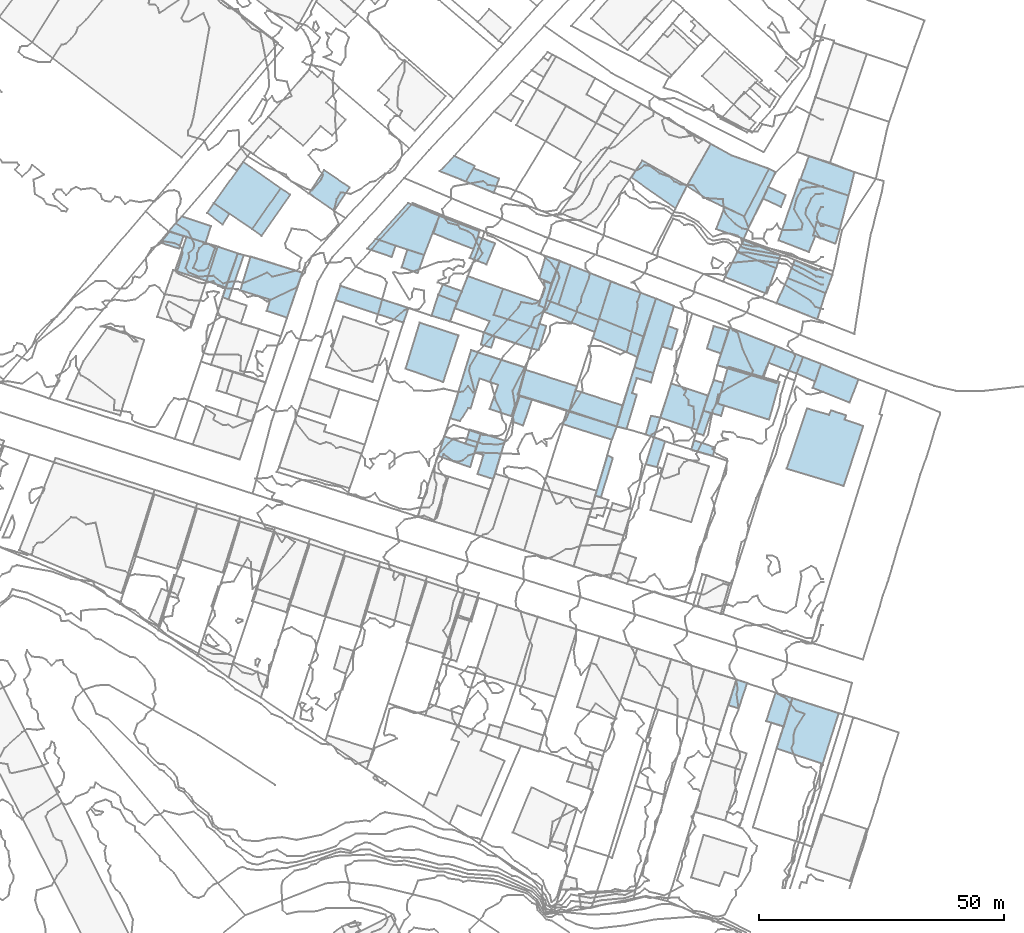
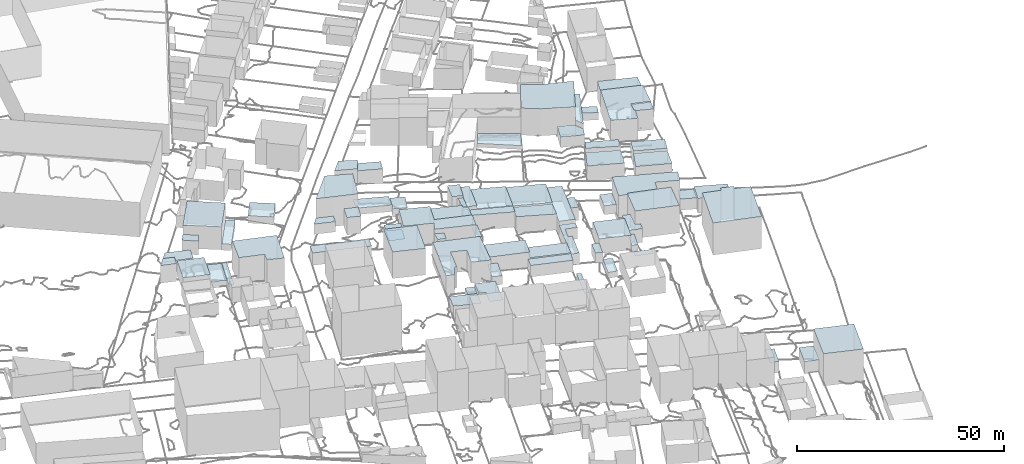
# Not in any storey, part 77 of 419: 71 roofs.
"""IFC2X3 model written with IfcOpenShell, lengths in metres."""

from ifc_helpers import new_model, si_unit, frame, origin_with_axes, place, context, subcontext, project, faceted_brep, element, save


model = new_model("IFC2X3")

# Units and contexts
model_context = context("Model", 3, precision=1e-05, world=origin_with_axes())
body_context = subcontext(model_context, "Body", "Model", "MODEL_VIEW")
ifc_project = project(units=[si_unit("AREAUNIT", "SQUARE_METRE"), si_unit("LENGTHUNIT", "METRE")], contexts=[model_context])

# Roofs
roof_1_placement = place(None, frame((909.2920204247, 193.2976909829, 76.31900177), z_axis=(0.0, 0.0, 1.0), x_axis=(1.0, 0.0, 0.0)))
element("IfcRoof", 1, at=roof_1_placement, Name="Toiture 0", ShapeType="NOTDEFINED", context=body_context, shape_type="Brep", body=[
    faceted_brep([(9.4, 2.6999999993, 5.68099823), (1.9, 5.2999999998, 5.68099823), (0.0, 0.0, 5.68099823), (9.0, -2.9000000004, 5.68099823), (10.4, 1.3999999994, 5.68099823), (9.2000000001, 1.8999999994, 5.68099823)], [[[0, 1, 2]], [[2, 3, 4]], [[5, 0, 2]], [[2, 4, 5]]]),
])
roof_2_placement = place(None, frame((841.2920204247, 207.9976909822, 78.8006016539), z_axis=(0.0, 0.0, 1.0), x_axis=(1.0, 0.0, 0.0)))
element("IfcRoof", 2, at=roof_2_placement, Name="Toiture 0", ShapeType="NOTDEFINED", context=body_context, shape_type="Brep", body=[
    faceted_brep([(3.8, -1.1999999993, 5.1993983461), (4.7000000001, 1.4000000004, 5.1993983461), (1.9, 2.3000000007, 5.1993983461), (0.0, 0.0, 5.1993983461)], [[[0, 1, 2]], [[2, 3, 0]]]),
])
roof_3_placement = place(None, frame((876.9920204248, 196.2976909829, 78.6641006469), z_axis=(0.0, 0.0, 1.0), x_axis=(1.0, 0.0, 0.0)))
element("IfcRoof", 3, at=roof_3_placement, Name="Toiture 0", ShapeType="NOTDEFINED", context=body_context, shape_type="Brep", body=[
    faceted_brep([(1.0, 2.8999999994, 3.6358993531), (0.0, 0.0, 3.6358993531), (13.9, -4.6000000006, 3.6358993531), (14.9, -1.6000000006, 3.6358993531)], [[[0, 1, 2]], [[2, 3, 0]]]),
])
roof_4_placement = place(None, frame((844.2920204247, 202.2976909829, 78.6877996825), z_axis=(0.0, 0.0, 1.0), x_axis=(1.0, 0.0, 0.0)))
element("IfcRoof", 4, at=roof_4_placement, Name="Toiture 0", ShapeType="NOTDEFINED", context=body_context, shape_type="Brep", body=[
    faceted_brep([(6.4, -2.1000000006, 4.1122003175), (8.7000000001, 4.8999999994, 4.1122003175), (2.3, 6.8999999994, 4.1122003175), (0.0, 0.0, 4.1122003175)], [[[0, 1, 2]], [[2, 3, 0]]]),
])
roof_5_placement = place(None, frame((890.4920204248, 202.9976909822, 78.856399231), z_axis=(0.0, 0.0, 1.0), x_axis=(1.0, 0.0, 0.0)))
element("IfcRoof", 5, at=roof_5_placement, Name="Toiture 0", ShapeType="NOTDEFINED", context=body_context, shape_type="Brep", body=[
    faceted_brep([(4.6, 2.5, 5.143600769), (1.2, 3.6000000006, 5.143600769), (0.0, 0.0, 5.143600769), (3.2999999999, -1.1999999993, 5.143600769)], [[[0, 1, 2]], [[2, 3, 0]]]),
])
roof_6_placement = place(None, frame((900.3920204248, 172.1976909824, 75.807699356), z_axis=(0.0, 0.0, 1.0), x_axis=(1.0, 0.0, 0.0)))
element("IfcRoof", 6, at=roof_6_placement, Name="Toiture 0", ShapeType="NOTDEFINED", context=body_context, shape_type="Brep", body=[
    faceted_brep([(4.2999999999, 13.9000000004, 6.192300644), (0.0, 0.0, 6.192300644), (2.0, -0.5999999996, 6.192300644), (3.7, 2.1000000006, 6.192300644), (4.2, 2.0, 6.192300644), (6.0, 8.1000000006, 6.192300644), (9.7999999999, 6.7999999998, 6.192300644), (8.1, 1.9000000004, 6.192300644), (12.7999999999, 0.2999999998, 6.192300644), (15.5, 10.2999999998, 6.192300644)], [[[0, 1, 2]], [[3, 4, 5]], [[6, 7, 8]], [[0, 2, 3]], [[6, 8, 9]], [[0, 3, 5]], [[5, 6, 9]], [[9, 0, 5]]]),
])
roof_7_placement = place(None, frame((891.2920204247, 182.2976909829, 78.2625008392), z_axis=(0.0, 0.0, 1.0), x_axis=(1.0, 0.0, 0.0)))
element("IfcRoof", 7, at=roof_7_placement, Name="Toiture 0", ShapeType="NOTDEFINED", context=body_context, shape_type="Brep", body=[
    faceted_brep([(2.9, 9.3999999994, 7.8374991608), (0.0, 0.0, 7.8374991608), (7.7000000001, -2.7000000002, 7.8374991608), (10.8, 6.7999999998, 7.8374991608)], [[[0, 1, 2]], [[2, 3, 0]]]),
])
roof_8_placement = place(None, frame((943.2920204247, 172.2976909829, 73.4867980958), z_axis=(0.0, 0.0, 1.0), x_axis=(1.0, 0.0, 0.0)))
element("IfcRoof", 8, at=roof_8_placement, Name="Toiture 0", ShapeType="NOTDEFINED", context=body_context, shape_type="Brep", body=[
    faceted_brep([(2.2000000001, 7.0, 4.3132019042), (0.0, 0.0, 4.3132019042), (7.5, -2.5, 4.3132019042), (9.7000000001, 4.5, 4.3132019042)], [[[0, 1, 2]], [[2, 3, 0]]]),
])
roof_9_placement = place(None, frame((950.5920204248, 169.1976909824, 72.9079986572), z_axis=(0.0, 0.0, 1.0), x_axis=(1.0, 0.0, 0.0)))
element("IfcRoof", 9, at=roof_9_placement, Name="Toiture 0", ShapeType="NOTDEFINED", context=body_context, shape_type="Brep", body=[
    faceted_brep([(0.0, 0.0, 2.2920013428), (1.5, -0.5, 2.2920013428), (3.0, 4.0, 2.2920013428), (1.5, 4.5, 2.2920013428), (0.2, 0.6000000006, 2.2920013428)], [[[0, 1, 2]], [[2, 3, 0]], [[4, 0, 3]]]),
])
roof_10_placement = place(None, frame((952.0920204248, 173.6976909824, 72.2478011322), z_axis=(0.0, 0.0, 1.0), x_axis=(1.0, 0.0, 0.0)))
element("IfcRoof", 10, at=roof_10_placement, Name="Toiture 0", ShapeType="NOTDEFINED", context=body_context, shape_type="Brep", body=[
    faceted_brep([(2.1, 6.2999999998, 4.0521988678), (0.9, 3.1000000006, 4.0521988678), (0.0, 0.0, 4.0521988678), (3.6, -1.0, 4.0521988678), (4.2, 1.0, 4.0521988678), (2.9, 1.5, 4.0521988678), (4.1, 5.7000000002, 4.0521988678)], [[[0, 1, 2]], [[2, 3, 4]], [[5, 6, 0]], [[2, 4, 5]], [[5, 0, 2]]]),
])
roof_11_placement = place(None, frame((852.1920204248, 216.0976909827, 80.4232022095), z_axis=(0.0, 0.0, 1.0), x_axis=(1.0, 0.0, 0.0)))
element("IfcRoof", 11, at=roof_11_placement, Name="Toiture 0", ShapeType="NOTDEFINED", context=body_context, shape_type="Brep", body=[
    faceted_brep([(13.6, 3.0, 6.7767977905), (6.0, 8.3999999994, 6.7767977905), (0.0, 0.0, 6.7767977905), (7.8, -5.2999999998, 6.7767977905)], [[[0, 1, 2]], [[2, 3, 0]]]),
])
roof_12_placement = place(None, frame((871.5920204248, 218.0976909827, 79.8493997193), z_axis=(0.0, 0.0, 1.0), x_axis=(1.0, 0.0, 0.0)))
element("IfcRoof", 12, at=roof_12_placement, Name="Toiture 0", ShapeType="NOTDEFINED", context=body_context, shape_type="Brep", body=[
    faceted_brep([(0.0, 0.0, 2.1506002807), (5.1, -3.6000000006, 2.1506002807), (8.3, 1.2000000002, 2.1506002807), (3.1, 4.7000000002, 2.1506002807)], [[[0, 1, 2]], [[2, 3, 0]]]),
])
roof_13_placement = place(None, frame((898.2920204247, 222.5976909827, 78.9779991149), z_axis=(0.0, 0.0, 1.0), x_axis=(1.0, 0.0, 0.0)))
element("IfcRoof", 13, at=roof_13_placement, Name="Toiture 0", ShapeType="NOTDEFINED", context=body_context, shape_type="Brep", body=[
    faceted_brep([(5.3, -2.1000000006, 4.2220008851), (6.9, 0.5999999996, 4.2220008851), (7.1000000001, 1.0999999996, 4.2220008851), (2.9, 3.0999999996, 4.2220008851), (0.0, 0.0, 4.2220008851)], [[[0, 1, 2]], [[2, 3, 4]], [[4, 0, 2]]]),
])
roof_14_placement = place(None, frame((903.5920204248, 220.4976909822, 78.4268002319), z_axis=(0.0, 0.0, 1.0), x_axis=(1.0, 0.0, 0.0)))
element("IfcRoof", 14, at=roof_14_placement, Name="Toiture 0", ShapeType="NOTDEFINED", context=body_context, shape_type="Brep", body=[
    faceted_brep([(0.0, 0.0, 4.1731997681), (5.7, -2.2999999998, 4.1731997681), (6.8, 0.6000000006, 4.1731997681), (1.6, 2.7000000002, 4.1731997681)], [[[0, 1, 2]], [[2, 3, 0]]]),
])
roof_15_placement = place(None, frame((850.6920204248, 200.1976909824, 78.6877996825), z_axis=(0.0, 0.0, 1.0), x_axis=(1.0, 0.0, 0.0)))
element("IfcRoof", 15, at=roof_15_placement, Name="Toiture 0", ShapeType="NOTDEFINED", context=body_context, shape_type="Brep", body=[
    faceted_brep([(3.9, -1.2999999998, 1.8122003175), (6.4, 5.6000000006, 1.8122003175), (2.3, 7.0, 1.8122003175), (0.0, 0.0, 1.8122003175)], [[[0, 1, 2]], [[2, 3, 0]]]),
])
roof_16_placement = place(None, frame((934.3920204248, 170.4976909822, 74.1349980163), z_axis=(0.0, 0.0, 1.0), x_axis=(1.0, 0.0, 0.0)))
element("IfcRoof", 16, at=roof_16_placement, Name="Toiture 0", ShapeType="NOTDEFINED", context=body_context, shape_type="Brep", body=[
    faceted_brep([(3.6, 12.1000000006, 3.3650019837), (0.0, 0.0, 3.3650019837), (2.0, -0.5, 3.3650019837), (4.1, 6.5, 3.3650019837), (3.1, 6.8000000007, 3.3650019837), (4.1, 9.9000000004, 3.3650019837), (7.0, 9.0, 3.3650019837), (7.5, 10.9000000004, 3.3650019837)], [[[0, 1, 2]], [[2, 3, 4]], [[5, 6, 7]], [[0, 2, 4]], [[5, 7, 0]], [[0, 4, 5]]]),
])
roof_17_placement = place(None, frame((905.4920204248, 165.1976909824, 74.2875997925), z_axis=(0.0, 0.0, 1.0), x_axis=(1.0, 0.0, 0.0)))
element("IfcRoof", 17, at=roof_17_placement, Name="Toiture 0", ShapeType="NOTDEFINED", context=body_context, shape_type="Brep", body=[
    faceted_brep([(1.2, 4.0, 5.0124002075), (0.0, 0.0, 5.0124002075), (1.7, -0.5, 5.0124002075), (0.5, -4.3999999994, 5.0124002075), (3.7, -5.3999999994, 5.0124002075), (6.1, 2.4000000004, 5.0124002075)], [[[0, 1, 2]], [[2, 3, 4]], [[4, 5, 0]], [[0, 2, 4]]]),
])
roof_18_placement = place(None, frame((897.9920204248, 197.3976909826, 78.2880004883), z_axis=(0.0, 0.0, 1.0), x_axis=(1.0, 0.0, 0.0)))
element("IfcRoof", 18, at=roof_18_placement, Name="Toiture 0", ShapeType="NOTDEFINED", context=body_context, shape_type="Brep", body=[
    faceted_brep([(0.9, 2.0999999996, 2.7119995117), (0.0, 0.0, 2.7119995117), (3.7999999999, -1.5, 2.7119995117), (4.7999999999, 0.7000000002, 2.7119995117)], [[[0, 1, 2]], [[2, 3, 0]]]),
])
roof_19_placement = place(None, frame((930.7920204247, 192.4976909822, 74.588999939), z_axis=(0.0, 0.0, 1.0), x_axis=(1.0, 0.0, 0.0)))
element("IfcRoof", 19, at=roof_19_placement, Name="Toiture 0", ShapeType="NOTDEFINED", context=body_context, shape_type="Brep", body=[
    faceted_brep([(11.6000000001, 4.1000000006, 5.111000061), (2.4, 7.6000000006, 5.111000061), (0.0, 0.0, 5.111000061), (9.0, -3.5999999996, 5.111000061)], [[[0, 1, 2]], [[2, 3, 0]]]),
])
roof_20_placement = place(None, frame((937.9920204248, 182.5976909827, 74.1879985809), z_axis=(0.0, 0.0, 1.0), x_axis=(1.0, 0.0, 0.0)))
element("IfcRoof", 20, at=roof_20_placement, Name="Toiture 0", ShapeType="NOTDEFINED", context=body_context, shape_type="Brep", body=[
    faceted_brep([(8.1, 12.5, 4.4120014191), (4.4, 14.0, 4.4120014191), (0.0, 0.0, 4.4120014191), (3.9, -1.2000000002, 4.4120014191)], [[[0, 1, 2]], [[2, 3, 0]]]),
])
roof_21_placement = place(None, frame((906.6920204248, 187.1976909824, 77.49039917), z_axis=(0.0, 0.0, 1.0), x_axis=(1.0, 0.0, 0.0)))
element("IfcRoof", 21, at=roof_21_placement, Name="Toiture 0", ShapeType="NOTDEFINED", context=body_context, shape_type="Brep", body=[
    faceted_brep([(2.8, 1.6000000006, 3.90960083), (0.6, 2.5, 3.90960083), (0.0, 0.0, 3.90960083), (2.1, -0.5999999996, 3.90960083)], [[[0, 1, 2]], [[2, 3, 0]]]),
])
roof_22_placement = place(None, frame((896.5920204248, 193.0976909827, 78.2880004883), z_axis=(0.0, 0.0, 1.0), x_axis=(1.0, 0.0, 0.0)))
element("IfcRoof", 22, at=roof_22_placement, Name="Toiture 0", ShapeType="NOTDEFINED", context=body_context, shape_type="Brep", body=[
    faceted_brep([(1.4, 4.2999999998, 2.6119995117), (0.0, 0.0, 2.6119995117), (3.8, -1.1000000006, 2.6119995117), (5.2, 2.7999999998, 2.6119995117)], [[[0, 1, 2]], [[2, 3, 0]]]),
])
roof_23_placement = place(None, frame((912.8920204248, 171.5976909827, 75.113199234), z_axis=(0.0, 0.0, 1.0), x_axis=(1.0, 0.0, 0.0)))
element("IfcRoof", 23, at=roof_23_placement, Name="Toiture 0", ShapeType="NOTDEFINED", context=body_context, shape_type="Brep", body=[
    faceted_brep([(4.2, 4.3999999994, 2.586800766), (1.7, 5.0999999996, 2.586800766), (0.0, 0.0, 2.586800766), (2.3999999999, -0.9000000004, 2.586800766)], [[[0, 1, 2]], [[2, 3, 0]]]),
])
roof_24_placement = place(None, frame((937.3920204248, 221.2976909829, 77.2576004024), z_axis=(0.0, 0.0, 1.0), x_axis=(1.0, 0.0, 0.0)))
element("IfcRoof", 24, at=roof_24_placement, Name="Toiture 0", ShapeType="NOTDEFINED", context=body_context, shape_type="Brep", body=[
    faceted_brep([(9.0, -6.3000000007, 1.1423995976), (11.2999999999, -1.7000000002, 1.1423995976), (2.2, 3.5, 1.1423995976), (0.0, 0.0, 1.1423995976)], [[[0, 1, 2]], [[2, 3, 0]]]),
])
roof_25_placement = place(None, frame((966.9920204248, 104.7976909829, 66.9700019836), z_axis=(0.0, 0.0, 1.0), x_axis=(1.0, 0.0, 0.0)))
element("IfcRoof", 25, at=roof_25_placement, Name="Toiture 0", ShapeType="NOTDEFINED", context=body_context, shape_type="Brep", body=[
    faceted_brep([(9.4, -3.1000000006, 9.5299980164), (12.7, 7.1999999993, 9.5299980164), (3.2, 10.2999999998, 9.5299980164), (0.0, 0.0, 9.5299980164)], [[[0, 1, 2]], [[2, 3, 0]]]),
])
roof_26_placement = place(None, frame((969.0920204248, 161.8976909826, 70.3125), z_axis=(0.0, 0.0, 1.0), x_axis=(1.0, 0.0, 0.0)))
element("IfcRoof", 26, at=roof_26_placement, Name="Toiture 0", ShapeType="NOTDEFINED", context=body_context, shape_type="Brep", body=[
    faceted_brep([(11.6, -3.5, 9.4875), (15.6, 8.7000000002, 9.4875), (11.8, 10.0, 9.4875), (12.1, 10.9000000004, 9.4875), (9.0, 11.9000000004, 9.4875), (8.6, 11.0, 9.4875), (4.1, 12.2999999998, 9.4875), (0.0, 0.0, 9.4875)], [[[0, 1, 2]], [[2, 3, 4]], [[5, 6, 7]], [[7, 0, 2]], [[2, 4, 5]], [[5, 7, 2]]]),
])
roof_27_placement = place(None, frame((949.5920204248, 165.7976909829, 71.9440007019), z_axis=(0.0, 0.0, 1.0), x_axis=(1.0, 0.0, 0.0)))
element("IfcRoof", 27, at=roof_27_placement, Name="Toiture 0", ShapeType="NOTDEFINED", context=body_context, shape_type="Brep", body=[
    faceted_brep([(4.9, 0.3999999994, 2.5559992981), (0.6, 1.8999999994, 2.5559992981), (0.0, 0.0, 2.5559992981), (4.4, -1.3000000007, 2.5559992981)], [[[0, 1, 2]], [[2, 3, 0]]]),
])
roof_28_placement = place(None, frame((903.4920204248, 166.9976909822, 75.2657026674), z_axis=(0.0, 0.0, 1.0), x_axis=(1.0, 0.0, 0.0)))
element("IfcRoof", 28, at=roof_28_placement, Name="Toiture 0", ShapeType="NOTDEFINED", context=body_context, shape_type="Brep", body=[
    faceted_brep([(0.9, 2.9000000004, 3.1342973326), (0.0, 0.0, 3.1342973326), (2.2, -0.6999999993, 3.1342973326), (3.2, 2.2000000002, 3.1342973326)], [[[0, 1, 2]], [[2, 3, 0]]]),
])
roof_29_placement = place(None, frame((904.3920204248, 204.8976909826, 78.1399993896), z_axis=(0.0, 0.0, 1.0), x_axis=(1.0, 0.0, 0.0)))
element("IfcRoof", 29, at=roof_29_placement, Name="Toiture 0", ShapeType="NOTDEFINED", context=body_context, shape_type="Brep", body=[
    faceted_brep([(0.7999999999, 1.7999999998, 2.3600006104), (0.0, 0.0, 2.3600006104), (3.3999999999, -1.2999999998, 2.3600006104), (5.2, 3.0, 2.3600006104), (1.7, 4.2999999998, 2.3600006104)], [[[0, 1, 2]], [[2, 3, 4]], [[4, 0, 2]]]),
])
roof_30_placement = place(None, frame((859.9920204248, 210.7976909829, 80.3249977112), z_axis=(0.0, 0.0, 1.0), x_axis=(1.0, 0.0, 0.0)))
element("IfcRoof", 30, at=roof_30_placement, Name="Toiture 0", ShapeType="NOTDEFINED", context=body_context, shape_type="Brep", body=[
    faceted_brep([(7.7999999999, 7.0, 1.8750022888), (5.7999999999, 8.2999999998, 1.8750022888), (0.0, 0.0, 1.8750022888), (1.9, -1.4000000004, 1.8750022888)], [[[0, 1, 2]], [[2, 3, 0]]]),
])
roof_31_placement = place(None, frame((929.9920204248, 156.3976909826, 74.1690032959), z_axis=(0.0, 0.0, 1.0), x_axis=(1.0, 0.0, 0.0)))
element("IfcRoof", 31, at=roof_31_placement, Name="Toiture 0", ShapeType="NOTDEFINED", context=body_context, shape_type="Brep", body=[
    faceted_brep([(2.5, 8.2000000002, 1.8309967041), (0.2999999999, 1.0, 1.8309967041), (0.0, 0.0, 1.8309967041), (1.2, -0.2999999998, 1.8309967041), (3.6, 7.7000000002, 1.8309967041)], [[[0, 1, 2]], [[2, 3, 4]], [[4, 0, 2]]]),
])
roof_32_placement = place(None, frame((897.9920204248, 164.4976909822, 74.7147990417), z_axis=(0.0, 0.0, 1.0), x_axis=(1.0, 0.0, 0.0)))
element("IfcRoof", 32, at=roof_32_placement, Name="Toiture 0", ShapeType="NOTDEFINED", context=body_context, shape_type="Brep", body=[
    faceted_brep([(7.7, 1.8000000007, 3.7852009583), (1.2, 4.0, 3.7852009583), (0.0, 0.0, 3.7852009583), (6.5, -2.2999999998, 3.7852009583)], [[[0, 1, 2]], [[2, 3, 0]]]),
])
roof_33_placement = place(None, frame((896.9920204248, 209.8976909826, 78.3790014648), z_axis=(0.0, 0.0, 1.0), x_axis=(1.0, 0.0, 0.0)))
element("IfcRoof", 33, at=roof_33_placement, Name="Toiture 0", ShapeType="NOTDEFINED", context=body_context, shape_type="Brep", body=[
    faceted_brep([(9.4, 0.4000000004, 1.9209985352), (1.2, 3.5999999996, 1.9209985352), (0.0, 0.0, 1.9209985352), (8.2, -3.2000000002, 1.9209985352)], [[[0, 1, 2]], [[2, 3, 0]]]),
])
roof_34_placement = place(None, frame((883.4920204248, 206.7976909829, 79.1811997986), z_axis=(0.0, 0.0, 1.0), x_axis=(1.0, 0.0, 0.0)))
element("IfcRoof", 34, at=roof_34_placement, Name="Toiture 0", ShapeType="NOTDEFINED", context=body_context, shape_type="Brep", body=[
    faceted_brep([(1.7, 2.0, 3.0188002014), (0.0, 0.0, 3.0188002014), (5.0, -1.7000000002, 3.0188002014), (5.7999999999, 0.5999999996, 3.0188002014)], [[[0, 1, 2]], [[2, 3, 0]]]),
])
roof_35_placement = place(None, frame((954.6920204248, 210.7976909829, 77.4896006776), z_axis=(0.0, 0.0, 1.0), x_axis=(1.0, 0.0, 0.0)))
element("IfcRoof", 35, at=roof_35_placement, Name="Toiture 0", ShapeType="NOTDEFINED", context=body_context, shape_type="Brep", body=[
    faceted_brep([(0.0, 0.0, 3.0103993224), (5.6, -2.0, 3.0103993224), (6.6, 0.2999999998, 3.0103993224), (5.7000000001, 2.5999999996, 3.0103993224), (1.7000000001, 4.5, 3.0103993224)], [[[0, 1, 2]], [[2, 3, 4]], [[4, 0, 2]]]),
])
roof_36_placement = place(None, frame((964.2920204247, 216.9976909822, 78.3328025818), z_axis=(0.0, 0.0, 1.0), x_axis=(1.0, 0.0, 0.0)))
element("IfcRoof", 36, at=roof_36_placement, Name="Toiture 0", ShapeType="NOTDEFINED", context=body_context, shape_type="Brep", body=[
    faceted_brep([(4.6000000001, 0.7000000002, 2.1671974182), (1.0, 2.4000000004, 2.1671974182), (0.0, 0.0, 2.1671974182), (3.6000000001, -1.6999999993, 2.1671974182)], [[[0, 1, 2]], [[2, 3, 0]]]),
])
roof_37_placement = place(None, frame((853.9920204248, 196.8976909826, 78.2600006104), z_axis=(0.0, 0.0, 1.0), x_axis=(1.0, 0.0, 0.0)))
element("IfcRoof", 37, at=roof_37_placement, Name="Toiture 0", ShapeType="NOTDEFINED", context=body_context, shape_type="Brep", body=[
    faceted_brep([(1.2, -0.5, 2.3399993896), (4.2999999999, 8.5999999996, 2.3399993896), (3.1, 8.9000000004, 2.3399993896), (0.0, 0.0, 2.3399993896)], [[[0, 1, 2]], [[2, 3, 0]]]),
])
roof_38_placement = place(None, frame((960.3920204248, 213.3976909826, 78.0435987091), z_axis=(0.0, 0.0, 1.0), x_axis=(1.0, 0.0, 0.0)))
element("IfcRoof", 38, at=roof_38_placement, Name="Toiture 0", ShapeType="NOTDEFINED", context=body_context, shape_type="Brep", body=[
    faceted_brep([(6.3999999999, 9.0, 3.9564012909), (5.1, 9.7000000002, 3.9564012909), (0.0, 0.0, 3.9564012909), (0.8999999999, -2.2999999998, 3.9564012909)], [[[0, 1, 2]], [[2, 3, 0]]]),
])
roof_39_placement = place(None, frame((971.8920204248, 220.8976909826, 76.4740020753), z_axis=(0.0, 0.0, 1.0), x_axis=(1.0, 0.0, 0.0)))
element("IfcRoof", 39, at=roof_39_placement, Name="Toiture 0", ShapeType="NOTDEFINED", context=body_context, shape_type="Brep", body=[
    faceted_brep([(9.7999999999, -3.2999999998, 4.9259979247), (11.0, 1.5, 4.9259979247), (1.7, 4.7999999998, 4.9259979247), (0.0, 0.0, 4.9259979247)], [[[0, 1, 2]], [[2, 3, 0]]]),
])
roof_40_placement = place(None, frame((971.0920204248, 181.2976909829, 71.1359985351), z_axis=(0.0, 0.0, 1.0), x_axis=(1.0, 0.0, 0.0)))
element("IfcRoof", 40, at=roof_40_placement, Name="Toiture 0", ShapeType="NOTDEFINED", context=body_context, shape_type="Brep", body=[
    faceted_brep([(5.0, 2.0, 3.2640014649), (1.3, 3.3999999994, 3.2640014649), (0.0, 0.0, 3.2640014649), (3.8, -1.6000000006, 3.2640014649)], [[[0, 1, 2]], [[2, 3, 0]]]),
])
roof_41_placement = place(None, frame((918.4920204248, 195.1976909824, 76.8913980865), z_axis=(0.0, 0.0, 1.0), x_axis=(1.0, 0.0, 0.0)))
element("IfcRoof", 41, at=roof_41_placement, Name="Toiture 0", ShapeType="NOTDEFINED", context=body_context, shape_type="Brep", body=[
    faceted_brep([(2.6, 4.5, 4.3086019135), (1.1, 4.9000000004, 4.3086019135), (1.2, 3.9000000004, 4.3086019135), (0.0, 0.0, 4.3086019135), (1.2, -0.5, 4.3086019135)], [[[0, 1, 2]], [[2, 3, 4]], [[4, 0, 2]]]),
])
roof_42_placement = place(None, frame((918.5920204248, 200.7976909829, 76.5183987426), z_axis=(0.0, 0.0, 1.0), x_axis=(1.0, 0.0, 0.0)))
element("IfcRoof", 42, at=roof_42_placement, Name="Toiture 0", ShapeType="NOTDEFINED", context=body_context, shape_type="Brep", body=[
    faceted_brep([(4.2, 3.5, 5.1816012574), (1.3, 4.5, 5.1816012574), (0.0, 0.0, 5.1816012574), (2.5, -1.1000000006, 5.1816012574)], [[[0, 1, 2]], [[2, 3, 0]]]),
])
roof_43_placement = place(None, frame((954.8920204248, 182.9976909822, 71.304499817), z_axis=(0.0, 0.0, 1.0), x_axis=(1.0, 0.0, 0.0)))
element("IfcRoof", 43, at=roof_43_placement, Name="Toiture 0", ShapeType="NOTDEFINED", context=body_context, shape_type="Brep", body=[
    faceted_brep([(17.5, 1.7000000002, 8.695500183), (2.6, 7.7000000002, 8.695500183), (0.0, 0.0, 8.695500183), (9.5, -2.3999999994, 8.695500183), (10.5, 0.5, 8.695500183), (16.2, -1.6999999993, 8.695500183)], [[[0, 1, 2]], [[2, 3, 4]], [[4, 5, 0]], [[0, 2, 4]]]),
])
roof_44_placement = place(None, frame((929.4920204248, 188.5976909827, 74.588999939), z_axis=(0.0, 0.0, 1.0), x_axis=(1.0, 0.0, 0.0)))
element("IfcRoof", 44, at=roof_44_placement, Name="Toiture 0", ShapeType="NOTDEFINED", context=body_context, shape_type="Brep", body=[
    faceted_brep([(0.0, 0.0, 4.711000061), (9.1, -3.9000000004, 4.711000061), (10.2999999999, 0.2999999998, 4.711000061), (1.2999999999, 3.8999999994, 4.711000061), (1.2, 3.5999999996, 4.711000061)], [[[0, 1, 2]], [[2, 3, 0]], [[4, 0, 3]]]),
])
roof_45_placement = place(None, frame((919.3920204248, 193.9976909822, 75.3839996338), z_axis=(0.0, 0.0, 1.0), x_axis=(1.0, 0.0, 0.0)))
element("IfcRoof", 45, at=roof_45_placement, Name="Toiture 0", ShapeType="NOTDEFINED", context=body_context, shape_type="Brep", body=[
    faceted_brep([(0.2999999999, 0.7000000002, 4.5160003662), (0.0, 0.0, 4.5160003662), (10.5, -4.1999999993, 4.5160003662), (11.2999999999, -1.7999999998, 4.5160003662), (0.7, 2.3000000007, 4.5160003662)], [[[0, 1, 2]], [[2, 3, 4]], [[4, 0, 2]]]),
])
roof_46_placement = place(None, frame((969.2920204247, 200.7976909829, 73.1272024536), z_axis=(0.0, 0.0, 1.0), x_axis=(1.0, 0.0, 0.0)))
element("IfcRoof", 46, at=roof_46_placement, Name="Toiture 0", ShapeType="NOTDEFINED", context=body_context, shape_type="Brep", body=[
    faceted_brep([(0.0, 0.0, 4.2727975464), (7.7000000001, -3.1000000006, 4.2727975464), (9.1000000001, 0.5999999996, 4.2727975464), (1.4, 3.6999999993, 4.2727975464)], [[[0, 1, 2]], [[2, 3, 0]]]),
])
roof_47_placement = place(None, frame((966.9920204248, 195.6976909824, 72.0699989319), z_axis=(0.0, 0.0, 1.0), x_axis=(1.0, 0.0, 0.0)))
element("IfcRoof", 47, at=roof_47_placement, Name="Toiture 0", ShapeType="NOTDEFINED", context=body_context, shape_type="Brep", body=[
    faceted_brep([(0.0, 0.0, 4.6300010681), (8.2999999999, -3.2999999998, 4.6300010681), (10.0, 2.0, 4.6300010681), (2.2999999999, 5.1000000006, 4.6300010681)], [[[0, 1, 2]], [[2, 3, 0]]]),
])
roof_48_placement = place(None, frame((923.3920204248, 170.9976909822, 74.3231997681), z_axis=(0.0, 0.0, 1.0), x_axis=(1.0, 0.0, 0.0)))
element("IfcRoof", 48, at=roof_48_placement, Name="Toiture 0", ShapeType="NOTDEFINED", context=body_context, shape_type="Brep", body=[
    faceted_brep([(11.0, -0.5, 3.3768002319), (0.7999999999, 2.7000000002, 3.3768002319), (0.0, 0.0, 3.3768002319), (10.0, -3.1999999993, 3.3768002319)], [[[0, 1, 2]], [[2, 3, 0]]]),
])
roof_49_placement = place(None, frame((974.3920204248, 178.3976909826, 70.8199996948), z_axis=(0.0, 0.0, 1.0), x_axis=(1.0, 0.0, 0.0)))
element("IfcRoof", 49, at=roof_49_placement, Name="Toiture 0", ShapeType="NOTDEFINED", context=body_context, shape_type="Brep", body=[
    faceted_brep([(9.2999999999, 1.7000000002, 4.3800003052), (1.7, 4.9000000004, 4.3800003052), (0.0, 0.0, 4.3800003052), (7.5, -3.0, 4.3800003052)], [[[0, 1, 2]], [[2, 3, 0]]]),
])
roof_50_placement = place(None, frame((940.2920204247, 168.8976909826, 73.7157978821), z_axis=(0.0, 0.0, 1.0), x_axis=(1.0, 0.0, 0.0)))
element("IfcRoof", 50, at=roof_50_placement, Name="Toiture 0", ShapeType="NOTDEFINED", context=body_context, shape_type="Brep", body=[
    faceted_brep([(1.1000000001, 3.7999999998, 2.9842021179), (0.0, 0.0, 2.9842021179), (1.7000000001, -0.5999999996, 2.9842021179), (3.0, 3.4000000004, 2.9842021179)], [[[0, 1, 2]], [[2, 3, 0]]]),
])
roof_51_placement = place(None, frame((948.6920204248, 219.5976909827, 77.9420021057), z_axis=(0.0, 0.0, 1.0), x_axis=(1.0, 0.0, 0.0)))
element("IfcRoof", 51, at=roof_51_placement, Name="Toiture 0", ShapeType="NOTDEFINED", context=body_context, shape_type="Brep", body=[
    faceted_brep([(9.1, 6.2000000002, 7.9579978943), (4.9, 8.5999999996, 7.9579978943), (0.0, 0.0, 7.9579978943), (4.1, -2.7000000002, 7.9579978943), (11.7000000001, -6.2000000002, 7.9579978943), (16.8, 3.5, 7.9579978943)], [[[0, 1, 2]], [[2, 3, 4]], [[4, 5, 0]], [[0, 2, 4]]]),
])
roof_52_placement = place(None, frame((957.1920204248, 113.5976909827, 68.7071984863), z_axis=(0.0, 0.0, 1.0), x_axis=(1.0, 0.0, 0.0)))
element("IfcRoof", 52, at=roof_52_placement, Name="Toiture 0", ShapeType="NOTDEFINED", context=body_context, shape_type="Brep", body=[
    faceted_brep([(2.1, -0.6000000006, 3.2928015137), (3.8, 4.5999999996, 3.2928015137), (1.6, 5.2999999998, 3.2928015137), (0.0, 0.0, 3.2928015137)], [[[0, 1, 2]], [[2, 3, 0]]]),
])
roof_53_placement = place(None, frame((958.9920204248, 206.0976909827, 73.0903997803), z_axis=(0.0, 0.0, 1.0), x_axis=(1.0, 0.0, 0.0)))
element("IfcRoof", 53, at=roof_53_placement, Name="Toiture 0", ShapeType="NOTDEFINED", context=body_context, shape_type="Brep", body=[
    faceted_brep([(8.7999999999, -0.6000000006, 5.4096002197), (1.2999999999, 2.3999999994, 5.4096002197), (0.0, 0.0, 5.4096002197), (7.9, -3.2999999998, 5.4096002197)], [[[0, 1, 2]], [[2, 3, 0]]]),
])
roof_54_placement = place(None, frame((974.4920204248, 209.4976909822, 76.1332025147), z_axis=(0.0, 0.0, 1.0), x_axis=(1.0, 0.0, 0.0)))
element("IfcRoof", 54, at=roof_54_placement, Name="Toiture 0", ShapeType="NOTDEFINED", context=body_context, shape_type="Brep", body=[
    faceted_brep([(4.5, -1.6999999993, 6.0667974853), (5.4, 1.2000000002, 6.0667974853), (0.7, 2.7000000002, 6.0667974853), (0.0, 0.0, 6.0667974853)], [[[0, 1, 2]], [[2, 3, 0]]]),
])
roof_55_placement = place(None, frame((967.3920204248, 208.4976909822, 76.1332025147), z_axis=(0.0, 0.0, 1.0), x_axis=(1.0, 0.0, 0.0)))
element("IfcRoof", 55, at=roof_55_placement, Name="Toiture 0", ShapeType="NOTDEFINED", context=body_context, shape_type="Brep", body=[
    faceted_brep([(12.5, 2.2000000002, 6.2667974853), (14.2999999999, 9.1000000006, 6.2667974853), (4.2999999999, 12.4000000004, 6.2667974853), (0.0, 0.0, 6.2667974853), (6.2, -2.3999999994, 6.2667974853), (7.5, 0.9000000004, 6.2667974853), (7.1, 1.0, 6.2667974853), (7.7999999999, 3.7000000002, 6.2667974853)], [[[0, 1, 2]], [[2, 3, 4]], [[4, 5, 6]], [[7, 0, 2]], [[2, 4, 6]], [[6, 7, 2]]]),
])
roof_56_placement = place(None, frame((956.4920204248, 200.9976909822, 72.9532003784), z_axis=(0.0, 0.0, 1.0), x_axis=(1.0, 0.0, 0.0)))
element("IfcRoof", 56, at=roof_56_placement, Name="Toiture 0", ShapeType="NOTDEFINED", context=body_context, shape_type="Brep", body=[
    faceted_brep([(10.4, 1.8000000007, 4.3467996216), (2.5, 5.1000000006, 4.3467996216), (0.0, 0.0, 4.3467996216), (8.5, -3.3999999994, 4.3467996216)], [[[0, 1, 2]], [[2, 3, 0]]]),
])
roof_57_placement = place(None, frame((954.9920204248, 175.1976909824, 72.0975009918), z_axis=(0.0, 0.0, 1.0), x_axis=(1.0, 0.0, 0.0)))
element("IfcRoof", 57, at=roof_57_placement, Name="Toiture 0", ShapeType="NOTDEFINED", context=body_context, shape_type="Brep", body=[
    faceted_brep([(2.2, 7.5, 8.1024990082), (2.0, 7.1000000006, 8.1024990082), (0.0, 0.0, 8.1024990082), (10.5, -3.2999999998, 8.1024990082), (12.6, 4.4000000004, 8.1024990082)], [[[0, 1, 2]], [[2, 3, 4]], [[4, 0, 2]]]),
])
roof_58_placement = place(None, frame((952.7920204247, 186.3976909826, 73.0867999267), z_axis=(0.0, 0.0, 1.0), x_axis=(1.0, 0.0, 0.0)))
element("IfcRoof", 58, at=roof_58_placement, Name="Toiture 0", ShapeType="NOTDEFINED", context=body_context, shape_type="Brep", body=[
    faceted_brep([(2.9, -1.0, 2.6132000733), (4.4, 3.7000000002, 2.6132000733), (1.4, 4.5999999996, 2.6132000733), (0.0, 0.0, 2.6132000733)], [[[0, 1, 2]], [[2, 3, 0]]]),
])
roof_59_placement = place(None, frame((964.8920204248, 110.3976909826, 67.8999998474), z_axis=(0.0, 0.0, 1.0), x_axis=(1.0, 0.0, 0.0)))
element("IfcRoof", 59, at=roof_59_placement, Name="Toiture 0", ShapeType="NOTDEFINED", context=body_context, shape_type="Brep", body=[
    faceted_brep([(0.0, 0.0, 3.6000001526), (3.6, -1.0999999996, 3.6000001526), (5.2999999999, 4.7000000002, 3.6000001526), (1.8999999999, 5.7999999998, 3.6000001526)], [[[0, 1, 2]], [[2, 3, 0]]]),
])
roof_60_placement = place(None, frame((916.9920204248, 186.3976909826, 75.8489025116), z_axis=(0.0, 0.0, 1.0), x_axis=(1.0, 0.0, 0.0)))
element("IfcRoof", 60, at=roof_60_placement, Name="Toiture 0", ShapeType="NOTDEFINED", context=body_context, shape_type="Brep", body=[
    faceted_brep([(1.2999999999, 4.0, 2.8510974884), (0.0, 0.0, 2.8510974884), (1.5, -0.2999999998, 2.8510974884), (3.0, 4.5999999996, 2.8510974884), (1.6, 5.0999999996, 2.8510974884)], [[[0, 1, 2]], [[2, 3, 4]], [[4, 0, 2]]]),
])
roof_61_placement = place(None, frame((850.7920204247, 214.0976909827, 80.4339996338), z_axis=(0.0, 0.0, 1.0), x_axis=(1.0, 0.0, 0.0)))
element("IfcRoof", 61, at=roof_61_placement, Name="Toiture 0", ShapeType="NOTDEFINED", context=body_context, shape_type="Brep", body=[
    faceted_brep([(4.5, -0.2000000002, 4.0660003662), (1.4, 2.0, 4.0660003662), (0.0, 0.0, 4.0660003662), (3.2000000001, -2.4000000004, 4.0660003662)], [[[0, 1, 2]], [[2, 3, 0]]]),
])
roof_62_placement = place(None, frame((920.0920204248, 196.2976909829, 76.1059989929), z_axis=(0.0, 0.0, 1.0), x_axis=(1.0, 0.0, 0.0)))
element("IfcRoof", 62, at=roof_62_placement, Name="Toiture 0", ShapeType="NOTDEFINED", context=body_context, shape_type="Brep", body=[
    faceted_brep([(4.9, 7.0999999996, 4.7940010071), (2.7, 8.0, 4.7940010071), (0.0, 0.0, 4.7940010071), (2.4, -0.9000000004, 4.7940010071)], [[[0, 1, 2]], [[2, 3, 0]]]),
])
roof_63_placement = place(None, frame((924.6920204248, 173.6976909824, 74.3799972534), z_axis=(0.0, 0.0, 1.0), x_axis=(1.0, 0.0, 0.0)))
element("IfcRoof", 63, at=roof_63_placement, Name="Toiture 0", ShapeType="NOTDEFINED", context=body_context, shape_type="Brep", body=[
    faceted_brep([(10.9, 1.1000000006, 3.5200027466), (1.3, 4.2000000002, 3.5200027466), (0.0, 0.0, 3.5200027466), (9.7000000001, -3.2000000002, 3.5200027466)], [[[0, 1, 2]], [[2, 3, 0]]]),
])
roof_64_placement = place(None, frame((914.1920204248, 176.9976909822, 74.9100016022), z_axis=(0.0, 0.0, 1.0), x_axis=(1.0, 0.0, 0.0)))
element("IfcRoof", 64, at=roof_64_placement, Name="Toiture 0", ShapeType="NOTDEFINED", context=body_context, shape_type="Brep", body=[
    faceted_brep([(12.1, 1.7000000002, 4.6899983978), (1.5, 5.1000000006, 4.6899983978), (0.0, 0.0, 4.6899983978), (10.5, -3.2999999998, 4.6899983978)], [[[0, 1, 2]], [[2, 3, 0]]]),
])
roof_65_placement = place(None, frame((922.4920204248, 195.3976909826, 75.4079986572), z_axis=(0.0, 0.0, 1.0), x_axis=(1.0, 0.0, 0.0)))
element("IfcRoof", 65, at=roof_65_placement, Name="Toiture 0", ShapeType="NOTDEFINED", context=body_context, shape_type="Brep", body=[
    faceted_brep([(10.7, 4.7000000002, 4.5920013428), (2.5, 8.0, 4.5920013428), (0.0, 0.0, 4.5920013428), (8.2, -3.2000000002, 4.5920013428)], [[[0, 1, 2]], [[2, 3, 0]]]),
])
roof_66_placement = place(None, frame((943.6920204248, 186.7976909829, 74.0939971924), z_axis=(0.0, 0.0, 1.0), x_axis=(1.0, 0.0, 0.0)))
element("IfcRoof", 66, at=roof_66_placement, Name="Toiture 0", ShapeType="NOTDEFINED", context=body_context, shape_type="Brep", body=[
    faceted_brep([(3.1, 3.5, 3.9060028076), (1.2000000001, 4.1999999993, 3.9060028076), (0.0, 0.0, 3.9060028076), (1.9, -0.6000000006, 3.9060028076)], [[[0, 1, 2]], [[2, 3, 0]]]),
])
roof_67_placement = place(None, frame((901.3920204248, 194.5976909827, 76.1120010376), z_axis=(0.0, 0.0, 1.0), x_axis=(1.0, 0.0, 0.0)))
element("IfcRoof", 67, at=roof_67_placement, Name="Toiture 0", ShapeType="NOTDEFINED", context=body_context, shape_type="Brep", body=[
    faceted_brep([(9.7999999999, 4.0, 6.5879989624), (2.6, 6.5999999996, 6.5879989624), (0.0, 0.0, 6.5879989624), (7.1, -2.6000000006, 6.5879989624), (5.8999999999, -4.9000000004, 6.5879989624), (15.6, -8.2000000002, 6.5879989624), (16.8999999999, -4.2000000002, 6.5879989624), (7.8999999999, -1.2999999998, 6.5879989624)], [[[0, 1, 2]], [[3, 4, 5]], [[5, 6, 7]], [[7, 0, 2]], [[3, 5, 7]], [[7, 2, 3]]]),
])
roof_68_placement = place(None, frame((940.2920204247, 162.7976909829, 72.9740005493), z_axis=(0.0, 0.0, 1.0), x_axis=(1.0, 0.0, 0.0)))
element("IfcRoof", 68, at=roof_68_placement, Name="Toiture 0", ShapeType="NOTDEFINED", context=body_context, shape_type="Brep", body=[
    faceted_brep([(4.0, 4.6999999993, 1.7259994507), (1.7000000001, 5.5, 1.7259994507), (0.0, 0.0, 1.7259994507), (2.3, -0.6000000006, 1.7259994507)], [[[0, 1, 2]], [[2, 3, 0]]]),
])
roof_69_placement = place(None, frame((842.8920204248, 210.2976909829, 79.5050990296), z_axis=(0.0, 0.0, 1.0), x_axis=(1.0, 0.0, 0.0)))
element("IfcRoof", 69, at=roof_69_placement, Name="Toiture 0", ShapeType="NOTDEFINED", context=body_context, shape_type="Brep", body=[
    faceted_brep([(8.7, 1.0999999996, 3.4949009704), (2.7, 3.0999999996, 3.4949009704), (0.0, 0.0, 3.4949009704), (7.6, -2.3000000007, 3.4949009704)], [[[0, 1, 2]], [[2, 3, 0]]]),
])
roof_70_placement = place(None, frame((857.5920204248, 198.2976909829, 78.2925003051), z_axis=(0.0, 0.0, 1.0), x_axis=(1.0, 0.0, 0.0)))
element("IfcRoof", 70, at=roof_70_placement, Name="Toiture 0", ShapeType="NOTDEFINED", context=body_context, shape_type="Brep", body=[
    faceted_brep([(9.5, -5.6000000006, 8.2074996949), (12.7, 3.5999999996, 8.2074996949), (2.1, 6.8999999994, 8.2074996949), (0.0, 0.0, 8.2074996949), (6.1, -1.9000000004, 8.2074996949), (5.4, -4.2000000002, 8.2074996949)], [[[0, 1, 2]], [[2, 3, 4]], [[4, 5, 0]], [[0, 2, 4]]]),
])
roof_71_placement = place(None, frame((885.1920204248, 208.7976909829, 79.1050006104), z_axis=(0.0, 0.0, 1.0), x_axis=(1.0, 0.0, 0.0)))
element("IfcRoof", 71, at=roof_71_placement, Name="Toiture 0", ShapeType="NOTDEFINED", context=body_context, shape_type="Brep", body=[
    faceted_brep([(0.0, 0.0, 8.7949993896), (4.1, -1.4000000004, 8.7949993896), (9.9, -3.3000000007, 8.7949993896), (13.0, 4.6999999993, 8.7949993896), (6.6, 7.2999999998, 8.7949993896)], [[[0, 1, 2]], [[2, 3, 4]], [[4, 0, 2]]]),
])

save(model, "model.ifc")
